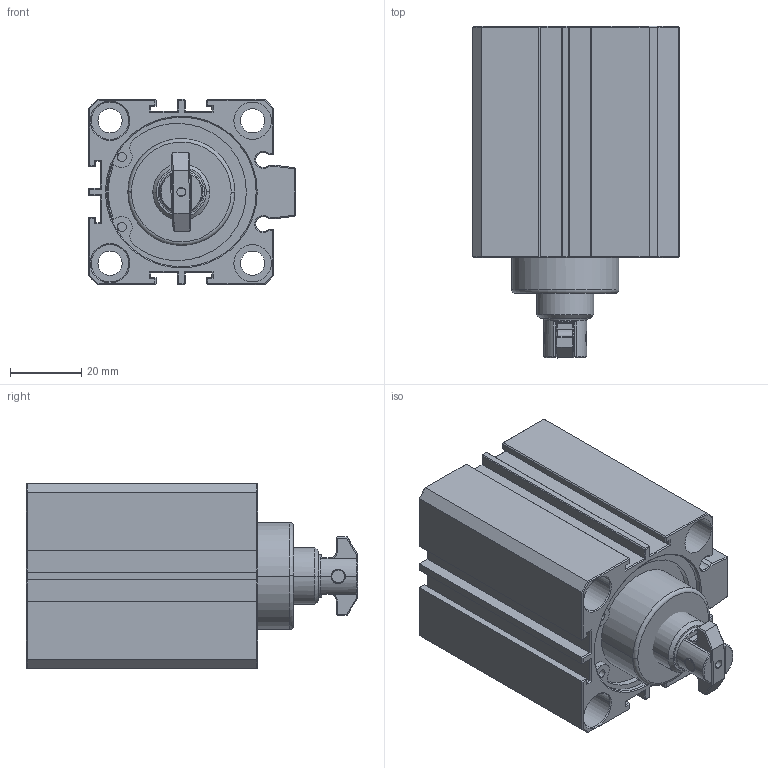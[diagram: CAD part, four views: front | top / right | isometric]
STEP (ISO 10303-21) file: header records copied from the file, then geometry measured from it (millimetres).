
FILE_DESCRIPTION((''),'2;1');
FILE_NAME('3D-NDFOCL40X5-10CP','2014-07-22T',('yfs-01'),('foxconn'),'PRO/ENGINEER BY PARAMETRIC TECHNOLOGY CORPORATION, 2007230','PRO/ENGINEER BY PARAMETRIC TECHNOLOGY CORPORATION, 2007230','');
FILE_SCHEMA(('CONFIG_CONTROL_DESIGN'));
Length unit declared in the file: metre
Products named in the file (1): 3D-NDFOCL40X5-10CP
Bounding box: 58 x 93.1 x 52 mm (x, y, z)
Volume: 159681.1 mm3; surface area: 39355.1 mm2
Topology: 2 solids, 5 shells, 451 faces, 1232 edges, 806 vertices
Faces by surface type: plane 281, cylinder 108, cone 48, bspline 8, torus 6
Entity records: 15390 total; most frequent: CARTESIAN_POINT 3722, ORIENTED_EDGE 2432, DIRECTION 2418, EDGE_CURVE 1232, AXIS2_PLACEMENT_3D 826, VERTEX_POINT 806, VECTOR 766, LINE 766
